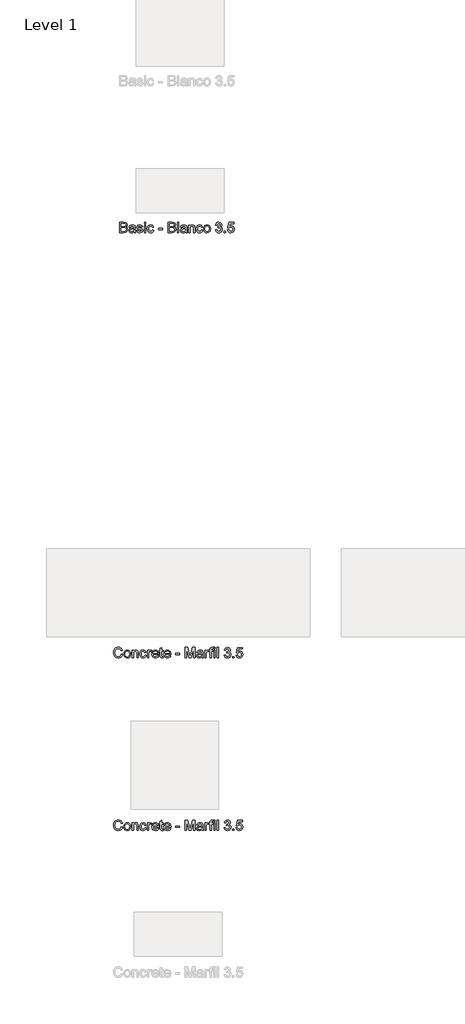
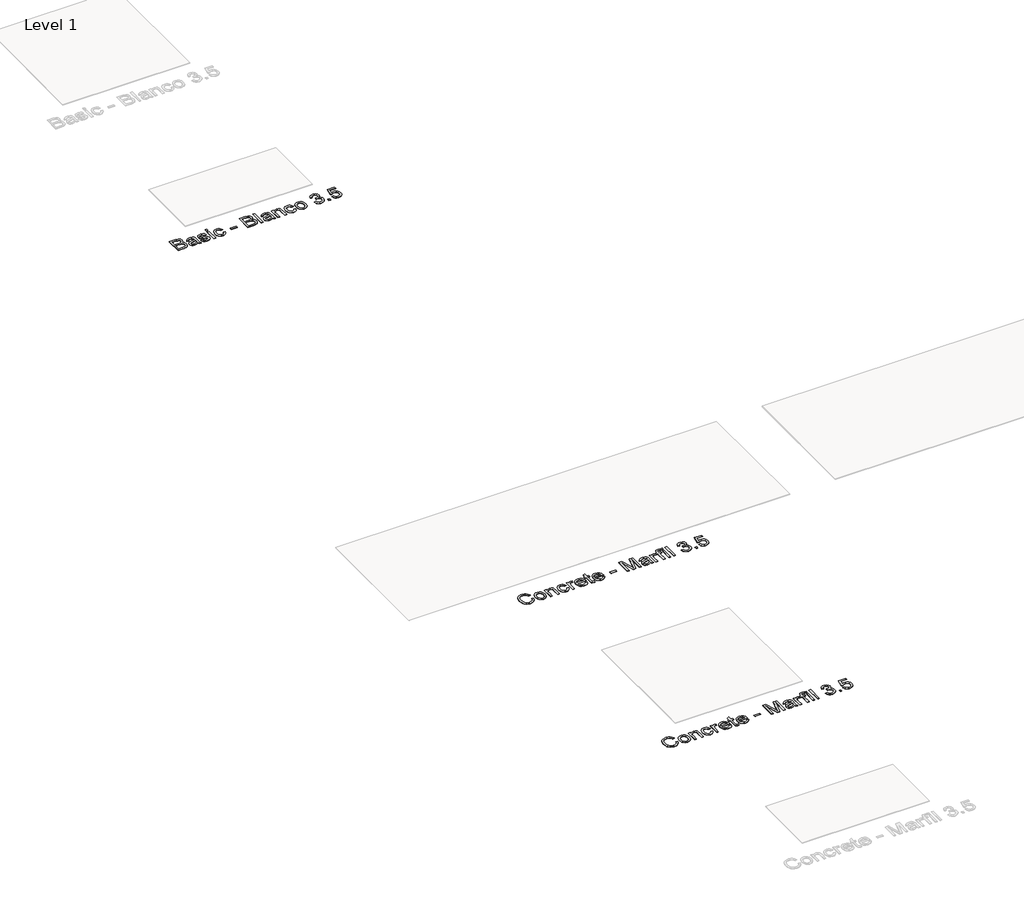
# One storey, part 44 of 80: 3 proxies.
"""IFC4 building model written with IfcOpenShell, lengths in millimetres."""

from ifc_helpers import new_model, si_unit, origin, origin_with_axes, place, context, project, spatial, polyline, outline, extrude, element, save

model = new_model("IFC4")

# Units and contexts
model_context = context("Model", 3, world=origin())
ifc_project = project(units=[si_unit("LENGTHUNIT", "METRE", prefix="MILLI")], contexts=[model_context])

# Site, building, storey
site = spatial("IfcSite", under=ifc_project)
building = spatial("IfcBuilding", under=site)
storey = spatial("IfcBuildingStorey", under=building, Name="Level 1", Elevation=0.0)

# Proxies
placement = place(None, origin())
element("IfcBuildingElementProxy", 1, Name="24\" Arial", ObjectType="24\" Arial", at=placement, inside=storey, context=model_context, shape_type="SweptSolid", body=[
    extrude(outline(polyline([(-26653.5376464, 10790.728562), (-26638.7684156, 10786.9208697), (-26645.5833194, 10769.7105332), (-26656.278031, 10757.1372159), (-26670.3261079, 10749.4461101), (-26687.2011079, 10746.8824082), (-26704.3321175, 10748.822312), (-26717.9366848, 10754.6420236), (-26728.3645694, 10764.1396197), (-26735.965531, 10777.1131774), (-26740.606156, 10792.3655813), (-26742.153031, 10808.6997159), (-26740.4042329, 10825.9280813), (-26735.1578387, 10840.8054851), (-26726.6878867, 10852.8595717), (-26715.2684156, 10861.6179851), (-26701.7251464, 10866.9509178), (-26686.8838002, 10868.728562), (-26670.6902906, 10866.4280813), (-26657.3020694, 10859.526639), (-26647.137406, 10848.4497159), (-26640.6145694, 10833.6227928), (-26655.3838002, 10830.103562), (-26660.5039925, 10840.8739947), (-26667.4991848, 10848.2622159), (-26676.4559156, 10852.5350524), (-26687.4607233, 10853.9593313), (-26700.1458194, 10852.3800044), (-26710.5664925, 10847.6420236), (-26718.4739444, 10840.2429851), (-26723.6193771, 10830.6804851), (-26727.3838002, 10808.728562), (-26722.9270694, 10783.2862544), (-26717.2299541, 10773.7850524), (-26709.0520694, 10767.0314467), (-26688.6722617, 10761.651639), (-26676.3441367, 10763.4833697), (-26666.0713002, 10768.978562), (-26658.3152906, 10778.0795236), (-26653.5376464, 10790.728562)])), origin_with_axes(), (0.0, 0.0, 1.0), 2.0),
    extrude(outline(polyline([(-26623.9991848, 10792.1131774), (-26620.8044733, 10813.0338505), (-26611.2203387, 10827.7381774), (-26599.3789925, 10834.9425044), (-26585.2011079, 10837.3439467), (-26569.6854829, 10834.4196678), (-26557.2924541, 10825.6468313), (-26549.168656, 10811.7177447), (-26546.4607233, 10793.3247159), (-26551.2491848, 10767.0458697), (-26565.1963002, 10752.1756774), (-26585.2011079, 10746.8824082), (-26600.9042329, 10749.7958697), (-26613.2828387, 10758.5362544), (-26621.3200983, 10772.7574082), (-26623.9991848, 10792.1131774)]), holes=[polyline([(-26609.2299541, 10792.1420236), (-26607.5208194, 10778.775437), (-26602.3934156, 10769.2526005), (-26594.6770694, 10763.5518794), (-26585.2011079, 10761.651639), (-26575.7684156, 10763.5626967), (-26568.0664925, 10769.2958697), (-26562.9390887, 10778.9449082), (-26561.2299541, 10792.603562), (-26562.949906, 10805.5807255), (-26568.1097617, 10814.9737544), (-26575.8225021, 10820.6744755), (-26585.2011079, 10822.5747159), (-26594.6770694, 10820.681687), (-26602.3934156, 10815.0026005), (-26607.5208194, 10805.5013986), (-26609.2299541, 10792.1420236)])]), origin_with_axes(), (0.0, 0.0, 1.0), 2.0),
    extrude(outline(polyline([(-26529.8453387, 10748.728562), (-26529.8453387, 10835.4977928), (-26515.0761079, 10835.4977928), (-26515.0761079, 10823.3824082), (-26503.7828387, 10833.853562), (-26488.3645694, 10837.3439467), (-26474.4174541, 10834.5314467), (-26464.8982233, 10827.1468313), (-26460.4703387, 10816.2862544), (-26459.6914925, 10802.0074082), (-26459.6914925, 10748.728562), (-26474.4607233, 10748.728562), (-26474.4607233, 10800.0170236), (-26476.1626464, 10813.0843313), (-26482.1770694, 10819.9929851), (-26492.3164925, 10822.5747159), (-26508.340531, 10816.776639), (-26513.3922137, 10808.3751967), (-26515.0761079, 10794.7670236), (-26515.0761079, 10748.728562), (-26529.8453387, 10748.728562)])), origin_with_axes(), (0.0, 0.0, 1.0), 2.0),
    extrude(outline(polyline([(-26383.9991848, 10780.1131774), (-26369.2299541, 10778.2670236), (-26373.3477425, 10765.1312063), (-26381.0857233, 10755.2045236), (-26391.715531, 10748.962937), (-26404.5088002, 10746.8824082), (-26420.2191367, 10749.7850524), (-26432.5039925, 10758.4929851), (-26440.4330791, 10772.6239947), (-26443.0761079, 10791.7958697), (-26438.5616848, 10816.3295236), (-26432.8645694, 10825.5278409), (-26424.8020694, 10832.0939467), (-26404.7107233, 10837.3439467), (-26392.231156, 10835.541062), (-26382.2539925, 10830.1324082), (-26375.0965406, 10821.4064467), (-26371.0761079, 10809.651639), (-26385.8453387, 10807.8054851), (-26392.6963002, 10818.8679851), (-26404.5953387, 10822.5747159), (-26414.1398098, 10820.7501967), (-26421.715531, 10815.276639), (-26426.6590406, 10805.8583697), (-26428.3068771, 10792.1997159), (-26426.6950983, 10778.3571678), (-26421.8597617, 10768.9064467), (-26414.4210598, 10763.4653409), (-26404.9991848, 10761.651639), (-26391.0809156, 10766.1804851), (-26383.9991848, 10780.1131774)])), origin_with_axes(), (0.0, 0.0, 1.0), 2.0),
    extrude(outline(polyline([(-26356.3068771, 10748.728562), (-26356.3068771, 10835.4977928), (-26343.3838002, 10835.4977928), (-26343.3838002, 10822.6612544), (-26334.2107233, 10834.4881774), (-26324.9799541, 10837.3439467), (-26310.153031, 10832.7862544), (-26315.0857233, 10819.5458697), (-26325.4703387, 10822.5747159), (-26333.8213002, 10819.6612544), (-26339.1434156, 10811.5843313), (-26341.5376464, 10794.3343313), (-26341.5376464, 10748.728562), (-26356.3068771, 10748.728562)])), origin_with_axes(), (0.0, 0.0, 1.0), 2.0),
    extrude(outline(polyline([(-26240.1722617, 10774.5747159), (-26225.6914925, 10772.728562), (-26230.9090406, 10761.8175044), (-26239.2347617, 10753.6612544), (-26250.481156, 10748.5771197), (-26264.4607233, 10746.8824082), (-26281.7900502, 10749.806687), (-26295.1241848, 10758.5795236), (-26303.6265887, 10772.6312063), (-26306.4607233, 10791.3920236), (-26303.5977425, 10810.7838505), (-26295.0088002, 10825.2862544), (-26281.8549541, 10834.3295236), (-26265.2972617, 10837.3439467), (-26249.2551944, 10834.3367351), (-26236.4366848, 10825.3151005), (-26228.0316367, 10810.8415428), (-26225.2299541, 10791.478562), (-26225.3164925, 10787.4977928), (-26291.6914925, 10787.4977928), (-26289.1350021, 10776.4425044), (-26283.1963002, 10768.3151005), (-26274.6253867, 10763.3175044), (-26264.1722617, 10761.651639), (-26249.6914925, 10764.7381774), (-26240.1722617, 10774.5747159)]), holes=[polyline([(-26291.6914925, 10802.2670236), (-26239.9991848, 10802.2670236), (-26245.9126464, 10815.651639), (-26254.5232233, 10820.8439467), (-26265.3549541, 10822.5747159), (-26283.5424541, 10817.0506774), (-26289.2648098, 10810.5927447), (-26291.6914925, 10802.2670236)])]), origin_with_axes(), (0.0, 0.0, 1.0), 2.0),
    extrude(outline(polyline([(-26179.0761079, 10761.0458697), (-26177.2299541, 10748.2958697), (-26188.278031, 10746.8824082), (-26200.653031, 10749.3343313), (-26206.8261079, 10755.7670236), (-26208.6145694, 10772.526639), (-26208.6145694, 10820.728562), (-26219.6914925, 10820.728562), (-26219.6914925, 10835.4977928), (-26208.6145694, 10835.4977928), (-26208.6145694, 10856.5843313), (-26193.8453387, 10865.2670236), (-26193.8453387, 10835.4977928), (-26179.0761079, 10835.4977928), (-26179.0761079, 10820.728562), (-26193.8453387, 10820.728562), (-26193.8453387, 10772.9593313), (-26193.0664925, 10765.3439467), (-26190.5424541, 10762.6468313), (-26185.5088002, 10761.651639), (-26179.0761079, 10761.0458697)])), origin_with_axes(), (0.0, 0.0, 1.0), 2.0),
    extrude(outline(polyline([(-26103.5568771, 10774.5747159), (-26089.0761079, 10772.728562), (-26094.293656, 10761.8175044), (-26102.6193771, 10753.6612544), (-26113.8657714, 10748.5771197), (-26127.8453387, 10746.8824082), (-26145.1746656, 10749.806687), (-26158.5088002, 10758.5795236), (-26167.0112041, 10772.6312063), (-26169.8453387, 10791.3920236), (-26166.9823579, 10810.7838505), (-26158.3934156, 10825.2862544), (-26145.2395694, 10834.3295236), (-26128.6818771, 10837.3439467), (-26112.6398098, 10834.3367351), (-26099.8213002, 10825.3151005), (-26091.4162521, 10810.8415428), (-26088.6145694, 10791.478562), (-26088.7011079, 10787.4977928), (-26155.0761079, 10787.4977928), (-26152.5196175, 10776.4425044), (-26146.5809156, 10768.3151005), (-26138.0100021, 10763.3175044), (-26127.5568771, 10761.651639), (-26113.0761079, 10764.7381774), (-26103.5568771, 10774.5747159)]), holes=[polyline([(-26155.0761079, 10802.2670236), (-26103.3838002, 10802.2670236), (-26109.2972617, 10815.651639), (-26117.9078387, 10820.8439467), (-26128.7395694, 10822.5747159), (-26146.9270694, 10817.0506774), (-26152.6494252, 10810.5927447), (-26155.0761079, 10802.2670236)])]), origin_with_axes(), (0.0, 0.0, 1.0), 2.0),
    extrude(outline(polyline([(-26035.0761079, 10783.8054851), (-26035.0761079, 10798.5747159), (-25988.9222617, 10798.5747159), (-25988.9222617, 10783.8054851), (-26035.0761079, 10783.8054851)])), origin_with_axes(), (0.0, 0.0, 1.0), 2.0),
    extrude(outline(polyline([(-25924.3068771, 10748.728562), (-25924.3068771, 10866.8824082), (-25898.8934156, 10866.8824082), (-25874.7203387, 10783.603562), (-25869.8453387, 10766.2093313), (-25864.5664925, 10785.0458697), (-25840.7972617, 10866.8824082), (-25815.3838002, 10866.8824082), (-25815.3838002, 10748.728562), (-25830.153031, 10748.728562), (-25830.153031, 10852.1131774), (-25859.8357233, 10748.728562), (-25879.8549541, 10748.728562), (-25909.5376464, 10852.1131774), (-25909.5376464, 10748.728562), (-25924.3068771, 10748.728562)])), origin_with_axes(), (0.0, 0.0, 1.0), 2.0),
    extrude(outline(polyline([(-25735.9991848, 10759.8054851), (-25750.3213002, 10749.7958697), (-25766.1434156, 10746.8824082), (-25778.4859637, 10748.634812), (-25787.590531, 10753.8920236), (-25793.2047137, 10761.8751967), (-25795.0761079, 10771.8054851), (-25792.2491848, 10783.4881774), (-25784.8213002, 10791.9689467), (-25774.4799541, 10796.8151005), (-25761.7011079, 10799.0362544), (-25736.0857233, 10804.1131774), (-25735.9991848, 10807.401639), (-25740.0664925, 10818.3054851), (-25756.3934156, 10822.5747159), (-25771.3357233, 10819.7333697), (-25778.4607233, 10809.651639), (-25793.2299541, 10811.4977928), (-25786.840531, 10825.9208697), (-25773.9751464, 10834.3727928), (-25754.4895694, 10837.3439467), (-25736.590531, 10834.7189467), (-25726.4799541, 10828.1276005), (-25721.9511079, 10818.103562), (-25721.2299541, 10805.1804851), (-25721.2299541, 10786.8054851), (-25720.4799541, 10761.1468313), (-25717.5376464, 10748.728562), (-25732.3068771, 10748.728562), (-25735.9991848, 10759.8054851)]), holes=[polyline([(-25735.9991848, 10789.3439467), (-25759.8261079, 10784.8151005), (-25772.5328387, 10782.4208697), (-25778.2876464, 10778.526639), (-25780.3068771, 10772.8439467), (-25775.9078387, 10764.853562), (-25762.9991848, 10761.651639), (-25748.0568771, 10765.1852928), (-25738.4222617, 10773.7381774), (-25736.0857233, 10785.1612544), (-25735.9991848, 10789.3439467)])]), origin_with_axes(), (0.0, 0.0, 1.0), 2.0),
    extrude(outline(polyline([(-25700.9222617, 10748.728562), (-25700.9222617, 10835.4977928), (-25687.9991848, 10835.4977928), (-25687.9991848, 10822.6612544), (-25678.8261079, 10834.4881774), (-25669.5953387, 10837.3439467), (-25654.7684156, 10832.7862544), (-25659.7011079, 10819.5458697), (-25670.0857233, 10822.5747159), (-25678.4366848, 10819.6612544), (-25683.7588002, 10811.5843313), (-25686.153031, 10794.3343313), (-25686.153031, 10748.728562), (-25700.9222617, 10748.728562)])), origin_with_axes(), (0.0, 0.0, 1.0), 2.0),
    extrude(outline(polyline([(-25641.8453387, 10748.728562), (-25641.8453387, 10820.728562), (-25654.7684156, 10820.728562), (-25654.7684156, 10835.4977928), (-25641.8453387, 10835.4977928), (-25641.8453387, 10844.2381774), (-25640.2876464, 10856.5554851), (-25632.7299541, 10865.353562), (-25617.8453387, 10868.728562), (-25604.3741848, 10867.1131774), (-25606.5376464, 10853.2670236), (-25615.0472617, 10853.9593313), (-25624.3501464, 10851.5074082), (-25627.0761079, 10842.3631774), (-25627.0761079, 10835.4977928), (-25610.4607233, 10835.4977928), (-25610.4607233, 10820.728562), (-25627.0761079, 10820.728562), (-25627.0761079, 10748.728562), (-25641.8453387, 10748.728562)])), origin_with_axes(), (0.0, 0.0, 1.0), 2.0),
    extrude(outline(polyline([(-25597.5376464, 10748.728562), (-25597.5376464, 10835.4977928), (-25582.7684156, 10835.4977928), (-25582.7684156, 10748.728562), (-25597.5376464, 10748.728562)])), origin_with_axes(), (0.0, 0.0, 1.0), 2.0),
    extrude(outline(polyline([(-25597.5376464, 10852.1131774), (-25597.5376464, 10866.8824082), (-25582.7684156, 10866.8824082), (-25582.7684156, 10852.1131774), (-25597.5376464, 10852.1131774)])), origin_with_axes(), (0.0, 0.0, 1.0), 2.0),
    extrude(outline(polyline([(-25560.6145694, 10748.728562), (-25560.6145694, 10866.8824082), (-25545.8453387, 10866.8824082), (-25545.8453387, 10748.728562), (-25560.6145694, 10748.728562)])), origin_with_axes(), (0.0, 0.0, 1.0), 2.0),
    extrude(outline(polyline([(-25481.2299541, 10780.1131774), (-25466.4607233, 10781.9593313), (-25458.3116848, 10766.4112544), (-25443.0664925, 10761.651639), (-25432.9414925, 10763.2886582), (-25425.1241848, 10768.1997159), (-25420.1265887, 10775.526639), (-25418.4607233, 10784.4112544), (-25420.1121656, 10792.8451486), (-25425.0664925, 10799.6852928), (-25432.5664925, 10804.2177447), (-25441.8549541, 10805.728562), (-25452.2107233, 10804.1131774), (-25450.5664925, 10818.8824082), (-25448.2011079, 10818.7093313), (-25431.4414925, 10822.9497159), (-25425.8597617, 10828.3295236), (-25423.9991848, 10835.9881774), (-25429.3934156, 10847.541062), (-25443.2972617, 10852.1131774), (-25457.3741848, 10847.4977928), (-25464.6145694, 10833.651639), (-25479.3838002, 10835.4977928), (-25475.0352425, 10848.759812), (-25467.2972617, 10858.6612544), (-25456.7107233, 10864.8271197), (-25443.8164925, 10866.8824082), (-25426.0039925, 10862.8295236), (-25413.5424541, 10851.7526005), (-25409.2299541, 10836.853562), (-25413.3261079, 10823.2381774), (-25425.4414925, 10813.4593313), (-25416.1963002, 10809.7237544), (-25409.3453387, 10803.3631774), (-25405.1049541, 10794.7237544), (-25403.6914925, 10784.151639), (-25406.5184156, 10769.7574082), (-25414.9991848, 10757.728562), (-25427.7996656, 10749.5939467), (-25443.5857233, 10746.8824082), (-25457.8645694, 10749.197312), (-25469.4895694, 10756.1420236), (-25477.5737041, 10766.7646197), (-25481.2299541, 10780.1131774)])), origin_with_axes(), (0.0, 0.0, 1.0), 2.0),
    extrude(outline(polyline([(-25383.3838002, 10748.728562), (-25383.3838002, 10763.4977928), (-25368.6145694, 10763.4977928), (-25368.6145694, 10748.728562), (-25383.3838002, 10748.728562)])), origin_with_axes(), (0.0, 0.0, 1.0), 2.0),
    extrude(outline(polyline([(-25344.6145694, 10780.1131774), (-25329.8453387, 10781.9593313), (-25322.403031, 10766.7429851), (-25306.9703387, 10761.651639), (-25296.3838002, 10763.4220717), (-25288.4511079, 10768.7333697), (-25283.496781, 10776.9725524), (-25281.8453387, 10787.526639), (-25283.3922137, 10797.464139), (-25288.0328387, 10805.0651005), (-25295.8032714, 10809.8896197), (-25306.7395694, 10811.4977928), (-25319.7059156, 10808.9304851), (-25327.9991848, 10802.2670236), (-25342.7684156, 10804.1131774), (-25329.8453387, 10865.0362544), (-25272.6145694, 10865.0362544), (-25272.6145694, 10850.2670236), (-25317.903031, 10850.2670236), (-25324.2203387, 10817.728562), (-25313.6698579, 10824.1324082), (-25302.6145694, 10826.2670236), (-25288.8152906, 10823.620389), (-25277.3597617, 10815.6804851), (-25269.6470214, 10803.5795236), (-25267.0761079, 10788.4497159), (-25269.3910117, 10773.6804851), (-25276.3357233, 10761.0458697), (-25289.6338002, 10750.4232736), (-25307.028031, 10746.8824082), (-25321.5340406, 10749.1576486), (-25333.090531, 10755.9833697), (-25341.012406, 10766.5663024), (-25344.6145694, 10780.1131774)])), origin_with_axes(), (0.0, 0.0, 1.0), 2.0),
])
element("IfcBuildingElementProxy", 2, Name="24\" Arial", ObjectType="24\" Arial", at=placement, inside=storey, context=model_context, shape_type="SweptSolid", body=[
    extrude(outline(polyline([(-26670.3068771, 15588.6835141), (-26670.3068771, 15706.8373603), (-26625.2203387, 15706.8373603), (-26603.1386079, 15703.3613987), (-26590.1001464, 15692.6738987), (-26585.3838002, 15677.5585141), (-26589.3501464, 15663.7556295), (-26601.3357233, 15653.2988987), (-26586.7828387, 15642.279668), (-26581.6914925, 15623.904668), (-26585.1674541, 15608.0248603), (-26593.778031, 15596.717168), (-26606.6289925, 15590.717168), (-26625.5664925, 15588.6835141), (-26670.3068771, 15588.6835141)]), holes=[polyline([(-26655.5376464, 15603.4527449), (-26625.2491848, 15603.4527449), (-26614.2876464, 15604.029668), (-26605.0136079, 15607.2460141), (-26598.8693771, 15613.8085141), (-26596.4607233, 15623.7604372), (-26599.2876464, 15635.2412064), (-26608.4463002, 15642.092168), (-26626.6914925, 15644.0681295), (-26655.5376464, 15644.0681295), (-26655.5376464, 15603.4527449)]), polyline([(-26655.5376464, 15658.8373603), (-26628.5664925, 15658.8373603), (-26612.8164925, 15660.1065911), (-26603.340531, 15665.5729372), (-26600.153031, 15675.1931295), (-26603.1241848, 15684.8277449), (-26611.6338002, 15690.5248603), (-26630.6145694, 15692.0681295), (-26655.5376464, 15692.0681295), (-26655.5376464, 15658.8373603)])]), origin_with_axes(), (0.0, 0.0, 1.0), 2.0),
    extrude(outline(polyline([(-26507.8453387, 15599.7604372), (-26522.1674541, 15589.7508218), (-26537.9895694, 15586.8373603), (-26550.3321175, 15588.5897641), (-26559.4366848, 15593.8469757), (-26565.0508675, 15601.8301487), (-26566.9222617, 15611.7604372), (-26564.0953387, 15623.4431295), (-26556.6674541, 15631.9238987), (-26546.3261079, 15636.7700526), (-26533.5472617, 15638.9912064), (-26507.9318771, 15644.0681295), (-26507.8453387, 15647.3565911), (-26511.9126464, 15658.2604372), (-26528.2395694, 15662.529668), (-26543.1818771, 15659.6883218), (-26550.3068771, 15649.6065911), (-26565.0761079, 15651.4527449), (-26558.6866848, 15665.8758218), (-26545.8213002, 15674.3277449), (-26526.3357233, 15677.2988987), (-26508.4366848, 15674.6738987), (-26498.3261079, 15668.0825526), (-26493.7972617, 15658.0585141), (-26493.0761079, 15645.1354372), (-26493.0761079, 15626.7604372), (-26492.3261079, 15601.1017834), (-26489.3838002, 15588.6835141), (-26504.153031, 15588.6835141), (-26507.8453387, 15599.7604372)]), holes=[polyline([(-26507.8453387, 15629.2988987), (-26531.6722617, 15624.7700526), (-26544.3789925, 15622.3758218), (-26550.1338002, 15618.4815911), (-26552.153031, 15612.7988987), (-26547.7539925, 15604.8085141), (-26534.8453387, 15601.6065911), (-26519.903031, 15605.1402449), (-26510.2684156, 15613.6931295), (-26507.9318771, 15625.1162064), (-26507.8453387, 15629.2988987)])]), origin_with_axes(), (0.0, 0.0, 1.0), 2.0),
    extrude(outline(polyline([(-26478.3068771, 15614.529668), (-26463.5376464, 15616.3758218), (-26456.7011079, 15605.4142834), (-26441.0376464, 15601.6065911), (-26425.9799541, 15605.0969757), (-26421.0761079, 15613.2892834), (-26426.0088002, 15619.9238987), (-26441.2107233, 15624.1354372), (-26463.4511079, 15631.3613987), (-26473.1578387, 15639.7988987), (-26476.4607233, 15651.7123603), (-26473.8068771, 15662.717168), (-26466.5664925, 15671.1258218), (-26457.1770694, 15675.4960141), (-26444.4703387, 15677.2988987), (-26426.4991848, 15674.3998603), (-26415.0761079, 15666.5537064), (-26409.9991848, 15653.2988987), (-26424.7684156, 15651.4527449), (-26430.3213002, 15659.6017834), (-26443.3164925, 15662.529668), (-26457.4511079, 15659.7315911), (-26461.6914925, 15653.2123603), (-26459.9318771, 15648.9142834), (-26454.4222617, 15645.654668), (-26441.7011079, 15642.5104372), (-26420.0232233, 15635.5585141), (-26409.9559156, 15627.6835141), (-26406.3068771, 15614.8469757), (-26410.590531, 15600.7123603), (-26422.9511079, 15590.4575526), (-26441.2395694, 15586.8373603), (-26456.1313964, 15588.5825526), (-26466.9991848, 15593.8181295), (-26474.2539925, 15602.4863987), (-26478.3068771, 15614.529668)])), origin_with_axes(), (0.0, 0.0, 1.0), 2.0),
    extrude(outline(polyline([(-26389.6914925, 15588.6835141), (-26389.6914925, 15675.4527449), (-26374.9222617, 15675.4527449), (-26374.9222617, 15588.6835141), (-26389.6914925, 15588.6835141)])), origin_with_axes(), (0.0, 0.0, 1.0), 2.0),
    extrude(outline(polyline([(-26389.6914925, 15692.0681295), (-26389.6914925, 15706.8373603), (-26374.9222617, 15706.8373603), (-26374.9222617, 15692.0681295), (-26389.6914925, 15692.0681295)])), origin_with_axes(), (0.0, 0.0, 1.0), 2.0),
    extrude(outline(polyline([(-26297.3838002, 15620.0681295), (-26282.6145694, 15618.2219757), (-26286.7323579, 15605.0861584), (-26294.4703387, 15595.1594757), (-26305.1001464, 15588.9178891), (-26317.8934156, 15586.8373603), (-26333.6037521, 15589.7400045), (-26345.8886079, 15598.4479372), (-26353.8176944, 15612.5789468), (-26356.4607233, 15631.7508218), (-26351.9463002, 15656.2844757), (-26346.2491848, 15665.482793), (-26338.1866848, 15672.0488987), (-26318.0953387, 15677.2988987), (-26305.6157714, 15675.4960141), (-26295.6386079, 15670.0873603), (-26288.481156, 15661.3613987), (-26284.4607233, 15649.6065911), (-26299.2299541, 15647.7604372), (-26306.0809156, 15658.8229372), (-26317.9799541, 15662.529668), (-26327.5244252, 15660.7051487), (-26335.1001464, 15655.2315911), (-26340.043656, 15645.8133218), (-26341.6914925, 15632.154668), (-26340.0797137, 15618.3121199), (-26335.2443771, 15608.8613987), (-26327.8056752, 15603.420293), (-26318.3838002, 15601.6065911), (-26304.465531, 15606.1354372), (-26297.3838002, 15620.0681295)])), origin_with_axes(), (0.0, 0.0, 1.0), 2.0),
    extrude(outline(polyline([(-26230.9222617, 15623.7604372), (-26230.9222617, 15638.529668), (-26184.7684156, 15638.529668), (-26184.7684156, 15623.7604372), (-26230.9222617, 15623.7604372)])), origin_with_axes(), (0.0, 0.0, 1.0), 2.0),
    extrude(outline(polyline([(-26120.153031, 15588.6835141), (-26120.153031, 15706.8373603), (-26075.0664925, 15706.8373603), (-26052.9847617, 15703.3613987), (-26039.9463002, 15692.6738987), (-26035.2299541, 15677.5585141), (-26039.1963002, 15663.7556295), (-26051.1818771, 15653.2988987), (-26036.6289925, 15642.279668), (-26031.5376464, 15623.904668), (-26035.0136079, 15608.0248603), (-26043.6241848, 15596.717168), (-26056.4751464, 15590.717168), (-26075.4126464, 15588.6835141), (-26120.153031, 15588.6835141)]), holes=[polyline([(-26105.3838002, 15658.8373603), (-26078.4126464, 15658.8373603), (-26062.6626464, 15660.1065911), (-26053.1866848, 15665.5729372), (-26049.9991848, 15675.1931295), (-26052.9703387, 15684.8277449), (-26061.4799541, 15690.5248603), (-26080.4607233, 15692.0681295), (-26105.3838002, 15692.0681295), (-26105.3838002, 15658.8373603)]), polyline([(-26105.3838002, 15603.4527449), (-26075.0953387, 15603.4527449), (-26064.1338002, 15604.029668), (-26054.8597617, 15607.2460141), (-26048.715531, 15613.8085141), (-26046.3068771, 15623.7604372), (-26049.1338002, 15635.2412064), (-26058.2924541, 15642.092168), (-26076.5376464, 15644.0681295), (-26105.3838002, 15644.0681295), (-26105.3838002, 15603.4527449)])]), origin_with_axes(), (0.0, 0.0, 1.0), 2.0),
    extrude(outline(polyline([(-26013.0761079, 15588.6835141), (-26013.0761079, 15706.8373603), (-25998.3068771, 15706.8373603), (-25998.3068771, 15588.6835141), (-26013.0761079, 15588.6835141)])), origin_with_axes(), (0.0, 0.0, 1.0), 2.0),
    extrude(outline(polyline([(-25920.7684156, 15599.7604372), (-25935.090531, 15589.7508218), (-25950.9126464, 15586.8373603), (-25963.2551944, 15588.5897641), (-25972.3597617, 15593.8469757), (-25977.9739444, 15601.8301487), (-25979.8453387, 15611.7604372), (-25977.0184156, 15623.4431295), (-25969.590531, 15631.9238987), (-25959.2491848, 15636.7700526), (-25946.4703387, 15638.9912064), (-25920.8549541, 15644.0681295), (-25920.7684156, 15647.3565911), (-25924.8357233, 15658.2604372), (-25941.1626464, 15662.529668), (-25956.1049541, 15659.6883218), (-25963.2299541, 15649.6065911), (-25977.9991848, 15651.4527449), (-25971.6097617, 15665.8758218), (-25958.7443771, 15674.3277449), (-25939.2588002, 15677.2988987), (-25921.3597617, 15674.6738987), (-25911.2491848, 15668.0825526), (-25906.7203387, 15658.0585141), (-25905.9991848, 15645.1354372), (-25905.9991848, 15626.7604372), (-25905.2491848, 15601.1017834), (-25902.3068771, 15588.6835141), (-25917.0761079, 15588.6835141), (-25920.7684156, 15599.7604372)]), holes=[polyline([(-25920.7684156, 15629.2988987), (-25944.5953387, 15624.7700526), (-25957.3020694, 15622.3758218), (-25963.0568771, 15618.4815911), (-25965.0761079, 15612.7988987), (-25960.6770694, 15604.8085141), (-25947.7684156, 15601.6065911), (-25932.8261079, 15605.1402449), (-25923.1914925, 15613.6931295), (-25920.8549541, 15625.1162064), (-25920.7684156, 15629.2988987)])]), origin_with_axes(), (0.0, 0.0, 1.0), 2.0),
    extrude(outline(polyline([(-25885.6914925, 15588.6835141), (-25885.6914925, 15675.4527449), (-25870.9222617, 15675.4527449), (-25870.9222617, 15663.3373603), (-25859.6289925, 15673.8085141), (-25844.2107233, 15677.2988987), (-25830.2636079, 15674.4863987), (-25820.7443771, 15667.1017834), (-25816.3164925, 15656.2412064), (-25815.5376464, 15641.9623603), (-25815.5376464, 15588.6835141), (-25830.3068771, 15588.6835141), (-25830.3068771, 15639.9719757), (-25832.0088002, 15653.0392834), (-25838.0232233, 15659.9479372), (-25848.1626464, 15662.529668), (-25864.1866848, 15656.7315911), (-25869.2383675, 15648.3301487), (-25870.9222617, 15634.7219757), (-25870.9222617, 15588.6835141), (-25885.6914925, 15588.6835141)])), origin_with_axes(), (0.0, 0.0, 1.0), 2.0),
    extrude(outline(polyline([(-25739.8453387, 15620.0681295), (-25725.0761079, 15618.2219757), (-25729.1938964, 15605.0861584), (-25736.9318771, 15595.1594757), (-25747.5616848, 15588.9178891), (-25760.3549541, 15586.8373603), (-25776.0652906, 15589.7400045), (-25788.3501464, 15598.4479372), (-25796.2792329, 15612.5789468), (-25798.9222617, 15631.7508218), (-25794.4078387, 15656.2844757), (-25788.7107233, 15665.482793), (-25780.6482233, 15672.0488987), (-25760.5568771, 15677.2988987), (-25748.0773098, 15675.4960141), (-25738.1001464, 15670.0873603), (-25730.9426944, 15661.3613987), (-25726.9222617, 15649.6065911), (-25741.6914925, 15647.7604372), (-25748.5424541, 15658.8229372), (-25760.4414925, 15662.529668), (-25769.9859637, 15660.7051487), (-25777.5616848, 15655.2315911), (-25782.5051944, 15645.8133218), (-25784.153031, 15632.154668), (-25782.5412521, 15618.3121199), (-25777.7059156, 15608.8613987), (-25770.2672137, 15603.420293), (-25760.8453387, 15601.6065911), (-25746.9270694, 15606.1354372), (-25739.8453387, 15620.0681295)])), origin_with_axes(), (0.0, 0.0, 1.0), 2.0),
    extrude(outline(polyline([(-25715.8453387, 15632.0681295), (-25712.6506271, 15652.9888026), (-25703.0664925, 15667.6931295), (-25691.2251464, 15674.8974564), (-25677.0472617, 15677.2988987), (-25661.5316367, 15674.3746199), (-25649.1386079, 15665.6017834), (-25641.0148098, 15651.6726968), (-25638.3068771, 15633.279668), (-25643.0953387, 15607.0008218), (-25657.0424541, 15592.1306295), (-25677.0472617, 15586.8373603), (-25692.7503867, 15589.7508218), (-25705.1289925, 15598.4912064), (-25713.1662521, 15612.7123603), (-25715.8453387, 15632.0681295)]), holes=[polyline([(-25701.0761079, 15632.0969757), (-25699.3669733, 15618.7303891), (-25694.2395694, 15609.2075526), (-25686.5232233, 15603.5068314), (-25677.0472617, 15601.6065911), (-25667.6145694, 15603.5176487), (-25659.9126464, 15609.2508218), (-25654.7852425, 15618.8998603), (-25653.0761079, 15632.5585141), (-25654.7960598, 15645.5356776), (-25659.9559156, 15654.9287064), (-25667.668656, 15660.6294276), (-25677.0472617, 15662.529668), (-25686.5232233, 15660.6366391), (-25694.2395694, 15654.9575526), (-25699.3669733, 15645.4563507), (-25701.0761079, 15632.0969757)])]), origin_with_axes(), (0.0, 0.0, 1.0), 2.0),
    extrude(outline(polyline([(-25579.2299541, 15620.0681295), (-25564.4607233, 15621.9142834), (-25556.3116848, 15606.3662064), (-25541.0664925, 15601.6065911), (-25530.9414925, 15603.2436103), (-25523.1241848, 15608.154668), (-25518.1265887, 15615.4815911), (-25516.4607233, 15624.3662064), (-25518.1121656, 15632.8001007), (-25523.0664925, 15639.6402449), (-25530.5664925, 15644.1726968), (-25539.8549541, 15645.6835141), (-25550.2107233, 15644.0681295), (-25548.5664925, 15658.8373603), (-25546.2011079, 15658.6642834), (-25529.4414925, 15662.904668), (-25523.8597617, 15668.2844757), (-25521.9991848, 15675.9431295), (-25527.3934156, 15687.4960141), (-25541.2972617, 15692.0681295), (-25555.3741848, 15687.4527449), (-25562.6145694, 15673.6065911), (-25577.3838002, 15675.4527449), (-25573.0352425, 15688.7147641), (-25565.2972617, 15698.6162064), (-25554.7107233, 15704.7820718), (-25541.8164925, 15706.8373603), (-25524.0039925, 15702.7844757), (-25511.5424541, 15691.7075526), (-25507.2299541, 15676.8085141), (-25511.3261079, 15663.1931295), (-25523.4414925, 15653.4142834), (-25514.1963002, 15649.6787064), (-25507.3453387, 15643.3181295), (-25503.1049541, 15634.6787064), (-25501.6914925, 15624.1065911), (-25504.5184156, 15609.7123603), (-25512.9991848, 15597.6835141), (-25525.7996656, 15589.5488987), (-25541.5857233, 15586.8373603), (-25555.8645694, 15589.1522641), (-25567.4895694, 15596.0969757), (-25575.5737041, 15606.7195718), (-25579.2299541, 15620.0681295)])), origin_with_axes(), (0.0, 0.0, 1.0), 2.0),
    extrude(outline(polyline([(-25481.3838002, 15588.6835141), (-25481.3838002, 15603.4527449), (-25466.6145694, 15603.4527449), (-25466.6145694, 15588.6835141), (-25481.3838002, 15588.6835141)])), origin_with_axes(), (0.0, 0.0, 1.0), 2.0),
    extrude(outline(polyline([(-25442.6145694, 15620.0681295), (-25427.8453387, 15621.9142834), (-25420.403031, 15606.6979372), (-25404.9703387, 15601.6065911), (-25394.3838002, 15603.3770237), (-25386.4511079, 15608.6883218), (-25381.496781, 15616.9275045), (-25379.8453387, 15627.4815911), (-25381.3922137, 15637.4190911), (-25386.0328387, 15645.0200526), (-25393.8032714, 15649.8445718), (-25404.7395694, 15651.4527449), (-25417.7059156, 15648.8854372), (-25425.9991848, 15642.2219757), (-25440.7684156, 15644.0681295), (-25427.8453387, 15704.9912064), (-25370.6145694, 15704.9912064), (-25370.6145694, 15690.2219757), (-25415.903031, 15690.2219757), (-25422.2203387, 15657.6835141), (-25411.6698579, 15664.0873603), (-25400.6145694, 15666.2219757), (-25386.8152906, 15663.5753411), (-25375.3597617, 15655.6354372), (-25367.6470214, 15643.5344757), (-25365.0761079, 15628.404668), (-25367.3910117, 15613.6354372), (-25374.3357233, 15601.0008218), (-25387.6338002, 15590.3782257), (-25405.028031, 15586.8373603), (-25419.5340406, 15589.1126007), (-25431.090531, 15595.9383218), (-25439.012406, 15606.5212545), (-25442.6145694, 15620.0681295)])), origin_with_axes(), (0.0, 0.0, 1.0), 2.0),
])
element("IfcBuildingElementProxy", 3, Name="24\" Arial", ObjectType="24\" Arial", at=placement, inside=storey, context=model_context, shape_type="SweptSolid", body=[
    extrude(outline(polyline([(-26653.5376464, 8825.4015192), (-26638.7684156, 8821.5938269), (-26645.5833194, 8804.3834904), (-26656.278031, 8791.8101731), (-26670.3261079, 8784.1190673), (-26687.2011079, 8781.5553654), (-26704.3321175, 8783.4952692), (-26717.9366848, 8789.3149808), (-26728.3645694, 8798.8125769), (-26735.965531, 8811.7861346), (-26740.606156, 8827.0385385), (-26742.153031, 8843.3726731), (-26740.4042329, 8860.6010385), (-26735.1578387, 8875.4784423), (-26726.6878867, 8887.5325289), (-26715.2684156, 8896.2909423), (-26701.7251464, 8901.623875), (-26686.8838002, 8903.4015192), (-26670.6902906, 8901.1010385), (-26657.3020694, 8894.1995962), (-26647.137406, 8883.1226731), (-26640.6145694, 8868.29575), (-26655.3838002, 8864.7765192), (-26660.5039925, 8875.5469519), (-26667.4991848, 8882.9351731), (-26676.4559156, 8887.2080096), (-26687.4607233, 8888.6322885), (-26700.1458194, 8887.0529616), (-26710.5664925, 8882.3149808), (-26718.4739444, 8874.9159423), (-26723.6193771, 8865.3534423), (-26727.3838002, 8843.4015192), (-26722.9270694, 8817.9592116), (-26717.2299541, 8808.4580096), (-26709.0520694, 8801.7044039), (-26688.6722617, 8796.3245962), (-26676.3441367, 8798.1563269), (-26666.0713002, 8803.6515192), (-26658.3152906, 8812.7524808), (-26653.5376464, 8825.4015192)])), origin_with_axes(), (0.0, 0.0, 1.0), 2.0),
    extrude(outline(polyline([(-26623.9991848, 8826.7861346), (-26620.8044733, 8847.7068077), (-26611.2203387, 8862.4111346), (-26599.3789925, 8869.6154616), (-26585.2011079, 8872.0169039), (-26569.6854829, 8869.092625), (-26557.2924541, 8860.3197885), (-26549.168656, 8846.3907019), (-26546.4607233, 8827.9976731), (-26551.2491848, 8801.7188269), (-26565.1963002, 8786.8486346), (-26585.2011079, 8781.5553654), (-26600.9042329, 8784.4688269), (-26613.2828387, 8793.2092116), (-26621.3200983, 8807.4303654), (-26623.9991848, 8826.7861346)]), holes=[polyline([(-26609.2299541, 8826.8149808), (-26607.5208194, 8813.4483942), (-26602.3934156, 8803.9255577), (-26594.6770694, 8798.2248366), (-26585.2011079, 8796.3245962), (-26575.7684156, 8798.2356539), (-26568.0664925, 8803.9688269), (-26562.9390887, 8813.6178654), (-26561.2299541, 8827.2765192), (-26562.949906, 8840.2536827), (-26568.1097617, 8849.6467116), (-26575.8225021, 8855.3474327), (-26585.2011079, 8857.2476731), (-26594.6770694, 8855.3546442), (-26602.3934156, 8849.6755577), (-26607.5208194, 8840.1743558), (-26609.2299541, 8826.8149808)])]), origin_with_axes(), (0.0, 0.0, 1.0), 2.0),
    extrude(outline(polyline([(-26529.8453387, 8783.4015192), (-26529.8453387, 8870.17075), (-26515.0761079, 8870.17075), (-26515.0761079, 8858.0553654), (-26503.7828387, 8868.5265192), (-26488.3645694, 8872.0169039), (-26474.4174541, 8869.2044039), (-26464.8982233, 8861.8197885), (-26460.4703387, 8850.9592116), (-26459.6914925, 8836.6803654), (-26459.6914925, 8783.4015192), (-26474.4607233, 8783.4015192), (-26474.4607233, 8834.6899808), (-26476.1626464, 8847.7572885), (-26482.1770694, 8854.6659423), (-26492.3164925, 8857.2476731), (-26508.340531, 8851.4495962), (-26513.3922137, 8843.0481539), (-26515.0761079, 8829.4399808), (-26515.0761079, 8783.4015192), (-26529.8453387, 8783.4015192)])), origin_with_axes(), (0.0, 0.0, 1.0), 2.0),
    extrude(outline(polyline([(-26383.9991848, 8814.7861346), (-26369.2299541, 8812.9399808), (-26373.3477425, 8799.8041635), (-26381.0857233, 8789.8774808), (-26391.715531, 8783.6358942), (-26404.5088002, 8781.5553654), (-26420.2191367, 8784.4580096), (-26432.5039925, 8793.1659423), (-26440.4330791, 8807.2969519), (-26443.0761079, 8826.4688269), (-26438.5616848, 8851.0024808), (-26432.8645694, 8860.2007981), (-26424.8020694, 8866.7669039), (-26404.7107233, 8872.0169039), (-26392.231156, 8870.2140192), (-26382.2539925, 8864.8053654), (-26375.0965406, 8856.0794039), (-26371.0761079, 8844.3245962), (-26385.8453387, 8842.4784423), (-26392.6963002, 8853.5409423), (-26404.5953387, 8857.2476731), (-26414.1398098, 8855.4231539), (-26421.715531, 8849.9495962), (-26426.6590406, 8840.5313269), (-26428.3068771, 8826.8726731), (-26426.6950983, 8813.030125), (-26421.8597617, 8803.5794039), (-26414.4210598, 8798.1382981), (-26404.9991848, 8796.3245962), (-26391.0809156, 8800.8534423), (-26383.9991848, 8814.7861346)])), origin_with_axes(), (0.0, 0.0, 1.0), 2.0),
    extrude(outline(polyline([(-26356.3068771, 8783.4015192), (-26356.3068771, 8870.17075), (-26343.3838002, 8870.17075), (-26343.3838002, 8857.3342116), (-26334.2107233, 8869.1611346), (-26324.9799541, 8872.0169039), (-26310.153031, 8867.4592116), (-26315.0857233, 8854.2188269), (-26325.4703387, 8857.2476731), (-26333.8213002, 8854.3342116), (-26339.1434156, 8846.2572885), (-26341.5376464, 8829.0072885), (-26341.5376464, 8783.4015192), (-26356.3068771, 8783.4015192)])), origin_with_axes(), (0.0, 0.0, 1.0), 2.0),
    extrude(outline(polyline([(-26240.1722617, 8809.2476731), (-26225.6914925, 8807.4015192), (-26230.9090406, 8796.4904616), (-26239.2347617, 8788.3342116), (-26250.481156, 8783.2500769), (-26264.4607233, 8781.5553654), (-26281.7900502, 8784.4796442), (-26295.1241848, 8793.2524808), (-26303.6265887, 8807.3041635), (-26306.4607233, 8826.0649808), (-26303.5977425, 8845.4568077), (-26295.0088002, 8859.9592116), (-26281.8549541, 8869.0024808), (-26265.2972617, 8872.0169039), (-26249.2551944, 8869.0096923), (-26236.4366848, 8859.9880577), (-26228.0316367, 8845.5145), (-26225.2299541, 8826.1515192), (-26225.3164925, 8822.17075), (-26291.6914925, 8822.17075), (-26289.1350021, 8811.1154616), (-26283.1963002, 8802.9880577), (-26274.6253867, 8797.9904616), (-26264.1722617, 8796.3245962), (-26249.6914925, 8799.4111346), (-26240.1722617, 8809.2476731)]), holes=[polyline([(-26291.6914925, 8836.9399808), (-26239.9991848, 8836.9399808), (-26245.9126464, 8850.3245962), (-26254.5232233, 8855.5169039), (-26265.3549541, 8857.2476731), (-26283.5424541, 8851.7236346), (-26289.2648098, 8845.2657019), (-26291.6914925, 8836.9399808)])]), origin_with_axes(), (0.0, 0.0, 1.0), 2.0),
    extrude(outline(polyline([(-26179.0761079, 8795.7188269), (-26177.2299541, 8782.9688269), (-26188.278031, 8781.5553654), (-26200.653031, 8784.0072885), (-26206.8261079, 8790.4399808), (-26208.6145694, 8807.1995962), (-26208.6145694, 8855.4015192), (-26219.6914925, 8855.4015192), (-26219.6914925, 8870.17075), (-26208.6145694, 8870.17075), (-26208.6145694, 8891.2572885), (-26193.8453387, 8899.9399808), (-26193.8453387, 8870.17075), (-26179.0761079, 8870.17075), (-26179.0761079, 8855.4015192), (-26193.8453387, 8855.4015192), (-26193.8453387, 8807.6322885), (-26193.0664925, 8800.0169039), (-26190.5424541, 8797.3197885), (-26185.5088002, 8796.3245962), (-26179.0761079, 8795.7188269)])), origin_with_axes(), (0.0, 0.0, 1.0), 2.0),
    extrude(outline(polyline([(-26103.5568771, 8809.2476731), (-26089.0761079, 8807.4015192), (-26094.293656, 8796.4904616), (-26102.6193771, 8788.3342116), (-26113.8657714, 8783.2500769), (-26127.8453387, 8781.5553654), (-26145.1746656, 8784.4796442), (-26158.5088002, 8793.2524808), (-26167.0112041, 8807.3041635), (-26169.8453387, 8826.0649808), (-26166.9823579, 8845.4568077), (-26158.3934156, 8859.9592116), (-26145.2395694, 8869.0024808), (-26128.6818771, 8872.0169039), (-26112.6398098, 8869.0096923), (-26099.8213002, 8859.9880577), (-26091.4162521, 8845.5145), (-26088.6145694, 8826.1515192), (-26088.7011079, 8822.17075), (-26155.0761079, 8822.17075), (-26152.5196175, 8811.1154616), (-26146.5809156, 8802.9880577), (-26138.0100021, 8797.9904616), (-26127.5568771, 8796.3245962), (-26113.0761079, 8799.4111346), (-26103.5568771, 8809.2476731)]), holes=[polyline([(-26155.0761079, 8836.9399808), (-26103.3838002, 8836.9399808), (-26109.2972617, 8850.3245962), (-26117.9078387, 8855.5169039), (-26128.7395694, 8857.2476731), (-26146.9270694, 8851.7236346), (-26152.6494252, 8845.2657019), (-26155.0761079, 8836.9399808)])]), origin_with_axes(), (0.0, 0.0, 1.0), 2.0),
    extrude(outline(polyline([(-26035.0761079, 8818.4784423), (-26035.0761079, 8833.2476731), (-25988.9222617, 8833.2476731), (-25988.9222617, 8818.4784423), (-26035.0761079, 8818.4784423)])), origin_with_axes(), (0.0, 0.0, 1.0), 2.0),
    extrude(outline(polyline([(-25924.3068771, 8783.4015192), (-25924.3068771, 8901.5553654), (-25898.8934156, 8901.5553654), (-25874.7203387, 8818.2765192), (-25869.8453387, 8800.8822885), (-25864.5664925, 8819.7188269), (-25840.7972617, 8901.5553654), (-25815.3838002, 8901.5553654), (-25815.3838002, 8783.4015192), (-25830.153031, 8783.4015192), (-25830.153031, 8886.7861346), (-25859.8357233, 8783.4015192), (-25879.8549541, 8783.4015192), (-25909.5376464, 8886.7861346), (-25909.5376464, 8783.4015192), (-25924.3068771, 8783.4015192)])), origin_with_axes(), (0.0, 0.0, 1.0), 2.0),
    extrude(outline(polyline([(-25735.9991848, 8794.4784423), (-25750.3213002, 8784.4688269), (-25766.1434156, 8781.5553654), (-25778.4859637, 8783.3077692), (-25787.590531, 8788.5649808), (-25793.2047137, 8796.5481539), (-25795.0761079, 8806.4784423), (-25792.2491848, 8818.1611346), (-25784.8213002, 8826.6419039), (-25774.4799541, 8831.4880577), (-25761.7011079, 8833.7092116), (-25736.0857233, 8838.7861346), (-25735.9991848, 8842.0745962), (-25740.0664925, 8852.9784423), (-25756.3934156, 8857.2476731), (-25771.3357233, 8854.4063269), (-25778.4607233, 8844.3245962), (-25793.2299541, 8846.17075), (-25786.840531, 8860.5938269), (-25773.9751464, 8869.04575), (-25754.4895694, 8872.0169039), (-25736.590531, 8869.3919039), (-25726.4799541, 8862.8005577), (-25721.9511079, 8852.7765192), (-25721.2299541, 8839.8534423), (-25721.2299541, 8821.4784423), (-25720.4799541, 8795.8197885), (-25717.5376464, 8783.4015192), (-25732.3068771, 8783.4015192), (-25735.9991848, 8794.4784423)]), holes=[polyline([(-25735.9991848, 8824.0169039), (-25759.8261079, 8819.4880577), (-25772.5328387, 8817.0938269), (-25778.2876464, 8813.1995962), (-25780.3068771, 8807.5169039), (-25775.9078387, 8799.5265192), (-25762.9991848, 8796.3245962), (-25748.0568771, 8799.85825), (-25738.4222617, 8808.4111346), (-25736.0857233, 8819.8342116), (-25735.9991848, 8824.0169039)])]), origin_with_axes(), (0.0, 0.0, 1.0), 2.0),
    extrude(outline(polyline([(-25700.9222617, 8783.4015192), (-25700.9222617, 8870.17075), (-25687.9991848, 8870.17075), (-25687.9991848, 8857.3342116), (-25678.8261079, 8869.1611346), (-25669.5953387, 8872.0169039), (-25654.7684156, 8867.4592116), (-25659.7011079, 8854.2188269), (-25670.0857233, 8857.2476731), (-25678.4366848, 8854.3342116), (-25683.7588002, 8846.2572885), (-25686.153031, 8829.0072885), (-25686.153031, 8783.4015192), (-25700.9222617, 8783.4015192)])), origin_with_axes(), (0.0, 0.0, 1.0), 2.0),
    extrude(outline(polyline([(-25641.8453387, 8783.4015192), (-25641.8453387, 8855.4015192), (-25654.7684156, 8855.4015192), (-25654.7684156, 8870.17075), (-25641.8453387, 8870.17075), (-25641.8453387, 8878.9111346), (-25640.2876464, 8891.2284423), (-25632.7299541, 8900.0265192), (-25617.8453387, 8903.4015192), (-25604.3741848, 8901.7861346), (-25606.5376464, 8887.9399808), (-25615.0472617, 8888.6322885), (-25624.3501464, 8886.1803654), (-25627.0761079, 8877.0361346), (-25627.0761079, 8870.17075), (-25610.4607233, 8870.17075), (-25610.4607233, 8855.4015192), (-25627.0761079, 8855.4015192), (-25627.0761079, 8783.4015192), (-25641.8453387, 8783.4015192)])), origin_with_axes(), (0.0, 0.0, 1.0), 2.0),
    extrude(outline(polyline([(-25597.5376464, 8783.4015192), (-25597.5376464, 8870.17075), (-25582.7684156, 8870.17075), (-25582.7684156, 8783.4015192), (-25597.5376464, 8783.4015192)])), origin_with_axes(), (0.0, 0.0, 1.0), 2.0),
    extrude(outline(polyline([(-25597.5376464, 8886.7861346), (-25597.5376464, 8901.5553654), (-25582.7684156, 8901.5553654), (-25582.7684156, 8886.7861346), (-25597.5376464, 8886.7861346)])), origin_with_axes(), (0.0, 0.0, 1.0), 2.0),
    extrude(outline(polyline([(-25560.6145694, 8783.4015192), (-25560.6145694, 8901.5553654), (-25545.8453387, 8901.5553654), (-25545.8453387, 8783.4015192), (-25560.6145694, 8783.4015192)])), origin_with_axes(), (0.0, 0.0, 1.0), 2.0),
    extrude(outline(polyline([(-25481.2299541, 8814.7861346), (-25466.4607233, 8816.6322885), (-25458.3116848, 8801.0842116), (-25443.0664925, 8796.3245962), (-25432.9414925, 8797.9616154), (-25425.1241848, 8802.8726731), (-25420.1265887, 8810.1995962), (-25418.4607233, 8819.0842116), (-25420.1121656, 8827.5181058), (-25425.0664925, 8834.35825), (-25432.5664925, 8838.8907019), (-25441.8549541, 8840.4015192), (-25452.2107233, 8838.7861346), (-25450.5664925, 8853.5553654), (-25448.2011079, 8853.3822885), (-25431.4414925, 8857.6226731), (-25425.8597617, 8863.0024808), (-25423.9991848, 8870.6611346), (-25429.3934156, 8882.2140192), (-25443.2972617, 8886.7861346), (-25457.3741848, 8882.17075), (-25464.6145694, 8868.3245962), (-25479.3838002, 8870.17075), (-25475.0352425, 8883.4327692), (-25467.2972617, 8893.3342116), (-25456.7107233, 8899.5000769), (-25443.8164925, 8901.5553654), (-25426.0039925, 8897.5024808), (-25413.5424541, 8886.4255577), (-25409.2299541, 8871.5265192), (-25413.3261079, 8857.9111346), (-25425.4414925, 8848.1322885), (-25416.1963002, 8844.3967116), (-25409.3453387, 8838.0361346), (-25405.1049541, 8829.3967116), (-25403.6914925, 8818.8245962), (-25406.5184156, 8804.4303654), (-25414.9991848, 8792.4015192), (-25427.7996656, 8784.2669039), (-25443.5857233, 8781.5553654), (-25457.8645694, 8783.8702692), (-25469.4895694, 8790.8149808), (-25477.5737041, 8801.4375769), (-25481.2299541, 8814.7861346)])), origin_with_axes(), (0.0, 0.0, 1.0), 2.0),
    extrude(outline(polyline([(-25383.3838002, 8783.4015192), (-25383.3838002, 8798.17075), (-25368.6145694, 8798.17075), (-25368.6145694, 8783.4015192), (-25383.3838002, 8783.4015192)])), origin_with_axes(), (0.0, 0.0, 1.0), 2.0),
    extrude(outline(polyline([(-25344.6145694, 8814.7861346), (-25329.8453387, 8816.6322885), (-25322.403031, 8801.4159423), (-25306.9703387, 8796.3245962), (-25296.3838002, 8798.0950289), (-25288.4511079, 8803.4063269), (-25283.496781, 8811.6455096), (-25281.8453387, 8822.1995962), (-25283.3922137, 8832.1370962), (-25288.0328387, 8839.7380577), (-25295.8032714, 8844.5625769), (-25306.7395694, 8846.17075), (-25319.7059156, 8843.6034423), (-25327.9991848, 8836.9399808), (-25342.7684156, 8838.7861346), (-25329.8453387, 8899.7092116), (-25272.6145694, 8899.7092116), (-25272.6145694, 8884.9399808), (-25317.903031, 8884.9399808), (-25324.2203387, 8852.4015192), (-25313.6698579, 8858.8053654), (-25302.6145694, 8860.9399808), (-25288.8152906, 8858.2933462), (-25277.3597617, 8850.3534423), (-25269.6470214, 8838.2524808), (-25267.0761079, 8823.1226731), (-25269.3910117, 8808.3534423), (-25276.3357233, 8795.7188269), (-25289.6338002, 8785.0962308), (-25307.028031, 8781.5553654), (-25321.5340406, 8783.8306058), (-25333.090531, 8790.6563269), (-25341.012406, 8801.2392596), (-25344.6145694, 8814.7861346)])), origin_with_axes(), (0.0, 0.0, 1.0), 2.0),
])

save(model, "model.ifc")
